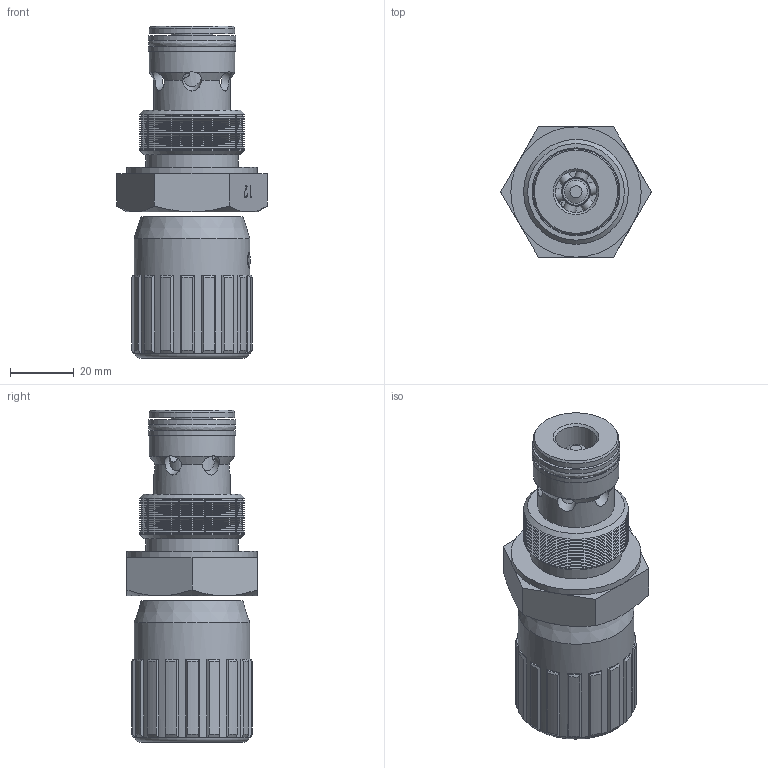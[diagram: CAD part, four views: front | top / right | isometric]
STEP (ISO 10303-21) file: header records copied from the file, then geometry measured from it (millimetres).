
FILE_DESCRIPTION (( 'STEP AP214' ), '1' );
FILE_NAME ('FT2627_5-12.STEP', '2015-04-15T13:29:21', ( 'cperuzzotti' ), ( 'Hewlett-Packard Company' ), 'SwSTEP 2.0', 'SolidWorks 2014', '' );
FILE_SCHEMA (( 'AUTOMOTIVE_DESIGN' ));
Length unit declared in the file: millimetre
Products named in the file (1): FT2627_5-12
Bounding box: 47.34 x 41 x 104.5 mm (x, y, z)
Surface area: 20173.3 mm2 (no closed solid volume)
Topology: 0 solids, 20 shells, 375 faces, 1331 edges, 959 vertices
Faces by surface type: plane 184, cone 93, cylinder 71, bspline 26, torus 1
Full cylindrical faces by diameter (mm): 1.164 x1, 4 x6, 5 x1, 6 x6, 13 x1, 15.5 x1, 19.3 x1, 24 x1, 27 x2, 27.59 x2, 29 x1, 33 x19, 36.5 x1, 41 x1
Entity records: 22693 total; most frequent: CARTESIAN_POINT 8059, ORIENTED_EDGE 1980, DIRECTION 1978, EDGE_CURVE 1220, VERTEX_POINT 942, LINE 704, VECTOR 704, AXIS2_PLACEMENT_3D 637
